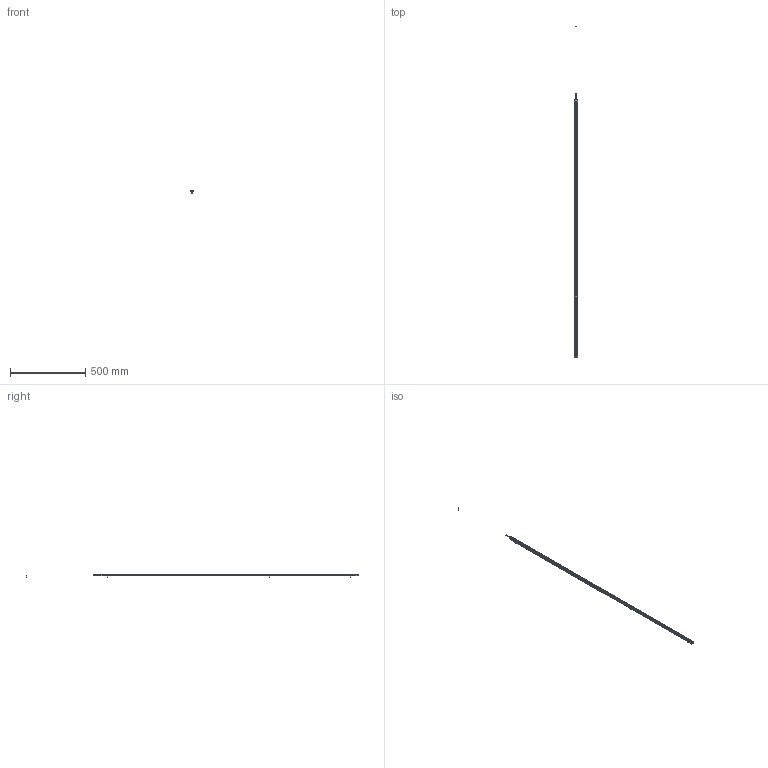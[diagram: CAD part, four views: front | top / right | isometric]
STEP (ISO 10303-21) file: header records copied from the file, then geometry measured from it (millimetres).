
FILE_DESCRIPTION (( 'STEP AP214' ), '1' );
FILE_NAME ('ILGA-B-K1-1720mm.STEP', '2026-04-24T22:50:49', ( '' ), ( '' ), 'SwSTEP 2.0', 'SolidWorks 2025', '' );
FILE_SCHEMA (( 'AUTOMOTIVE_DESIGN' ));
Length unit declared in the file: millimetre
Products named in the file (1): ILGA-B-K1-1720mm
Bounding box: 22.4 x 2212.47 x 25.7 mm (x, y, z)
Volume: 129764.1 mm3; surface area: 233606.8 mm2
Topology: 13 solids, 13 shells, 724 faces, 1856 edges, 1136 vertices
Faces by surface type: plane 314, cylinder 268, cone 60, torus 42, bspline 24, sphere 16
Entity records: 30221 total; most frequent: CARTESIAN_POINT 4617, DIRECTION 3820, ORIENTED_EDGE 3624, EDGE_CURVE 1812, AXIS2_PLACEMENT_3D 1427, VERTEX_POINT 1136, LINE 966, VECTOR 966
